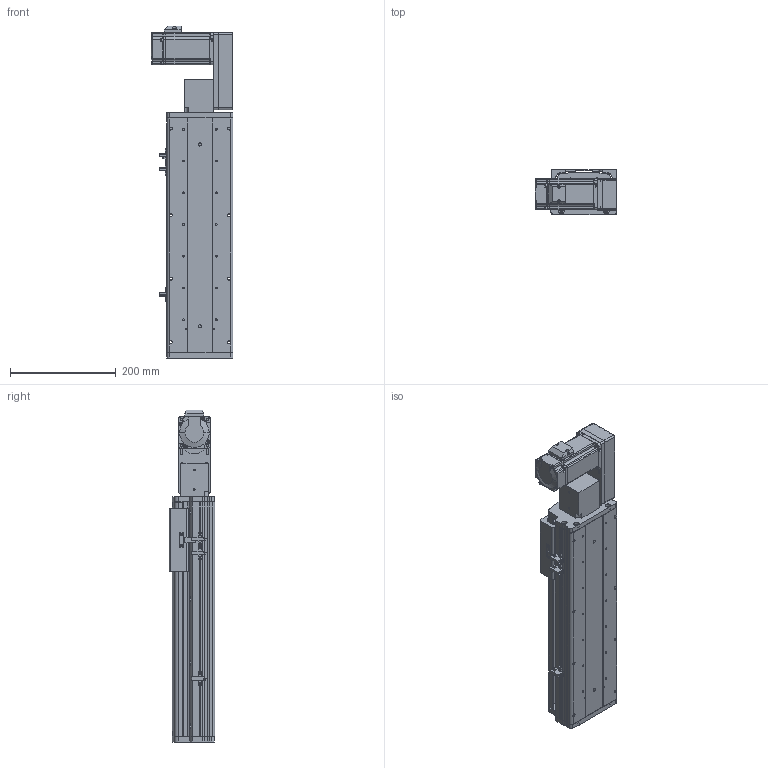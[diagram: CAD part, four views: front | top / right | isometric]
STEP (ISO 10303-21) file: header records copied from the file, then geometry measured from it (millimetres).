
FILE_DESCRIPTION (( 'STEP AP214' ), '1' );
FILE_NAME ('KSD125B-S250-MLB-CM.STEP', '2017-10-21T01:32:09', ( '微软用户' ), ( '微软中国' ), 'SwSTEP 2.0', 'SolidWorks 2014', '' );
FILE_SCHEMA (( 'AUTOMOTIVE_DESIGN' ));
Length unit declared in the file: millimetre
Products named in the file (17): KSD125B-S250-MLB-CM; 悵誘欶奻狟殏; HTPA30S3M150_A_H6_a佪裝蚚; HTPA30S3M150_A_H6_a萇儂蚚; 100宽马达安装板连板上下折丝杆同步带; 100宽马达安装板同步带左; KSD125模组250行程同步带-防尘盖; 125模组250行程同步带-底板; MHMD042G1CA_2_03; KSD125模组同步带-防撞垫2; 覜茼え68遵圉猾敕; U倰嫖萇假蚾璃; U倰嫖萇EEㄜSX672; KSD125模组同步带-防撞垫1; 前端板-125宽模组同步带; 125模组同步带-尾端板1; KSD125模组同步带-滑动座1
Assembly tree (20 placements, depth 2):
  KSD125B-S250-MLB-CM
    KSD125模组同步带-滑动座1
    125模组同步带-尾端板1
    前端板-125宽模组同步带
    KSD125模组同步带-防撞垫1
    U倰嫖萇EEㄜSX672  x3
    U倰嫖萇假蚾璃  x3
    覜茼え68遵圉猾敕
    KSD125模组同步带-防撞垫2
    MHMD042G1CA_2_03
    125模组250行程同步带-底板
    KSD125模组250行程同步带-防尘盖
    100宽马达安装板同步带左
    100宽马达安装板连板上下折丝杆同步带
    HTPA30S3M150_A_H6_a萇儂蚚
    HTPA30S3M150_A_H6_a佪裝蚚
    悵誘欶奻狟殏
Bounding box: 155 x 86 x 628 mm (x, y, z)
Volume: 1924461.6 mm3; surface area: 689247.3 mm2
Topology: 19 solids, 22 shells, 2203 faces, 6373 edges, 4210 vertices
Faces by surface type: cylinder 1360, plane 716, cone 105, bspline 22
Entity records: 77843 total; most frequent: CARTESIAN_POINT 15411, DIRECTION 12114, ORIENTED_EDGE 11266, EDGE_CURVE 5711, AXIS2_PLACEMENT_3D 4665, VERTEX_POINT 3802, LINE 2784, VECTOR 2784
